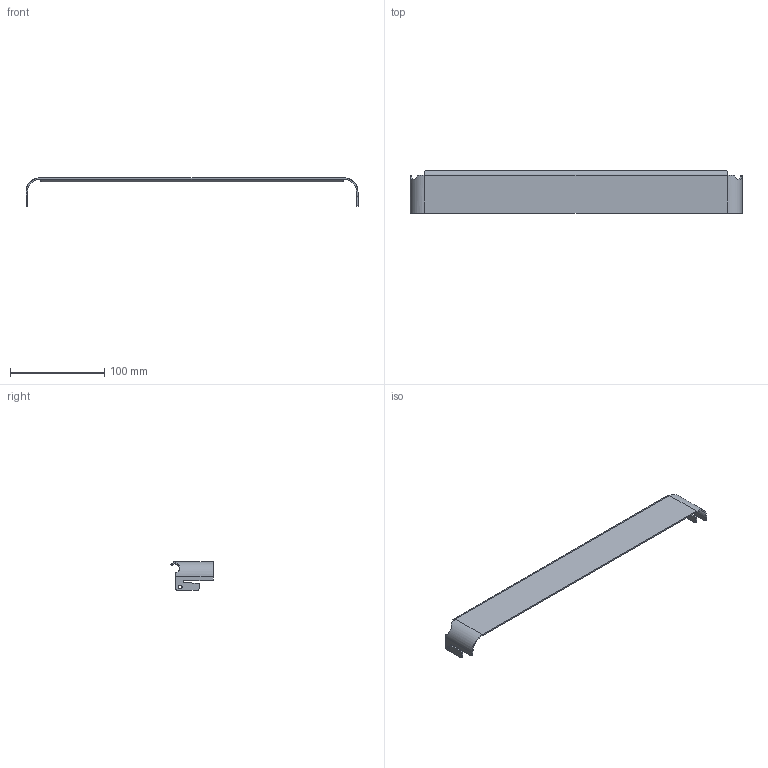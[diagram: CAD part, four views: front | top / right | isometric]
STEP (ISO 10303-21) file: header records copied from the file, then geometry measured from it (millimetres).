
FILE_DESCRIPTION((''),'2;1');
FILE_NAME('674339','2022-07-18T09:25:28',('1ke04'),('Kesseboehmer'),'CREO PARAMETRIC BY PTC INC, 2020184','CREO PARAMETRIC BY PTC INC, 2020184','');
FILE_SCHEMA(('AUTOMOTIVE_DESIGN { 1 0 10303 214 1 1 1 1 }'));
Length unit declared in the file: millimetre
Products named in the file (1): 674339
Bounding box: 351.5 x 45.04 x 30.5 mm (x, y, z)
Volume: 25874 mm3; surface area: 35961.4 mm2
Topology: 1 solids, 1 shells, 74 faces, 193 edges, 126 vertices
Faces by surface type: plane 38, cylinder 24, bspline 12
Entity records: 3371 total; most frequent: CARTESIAN_POINT 932, ORIENTED_EDGE 384, DIRECTION 359, COLOUR_RGB 193, EDGE_CURVE 192, AXIS2_PLACEMENT_3D 128, VERTEX_POINT 120, VECTOR 100
